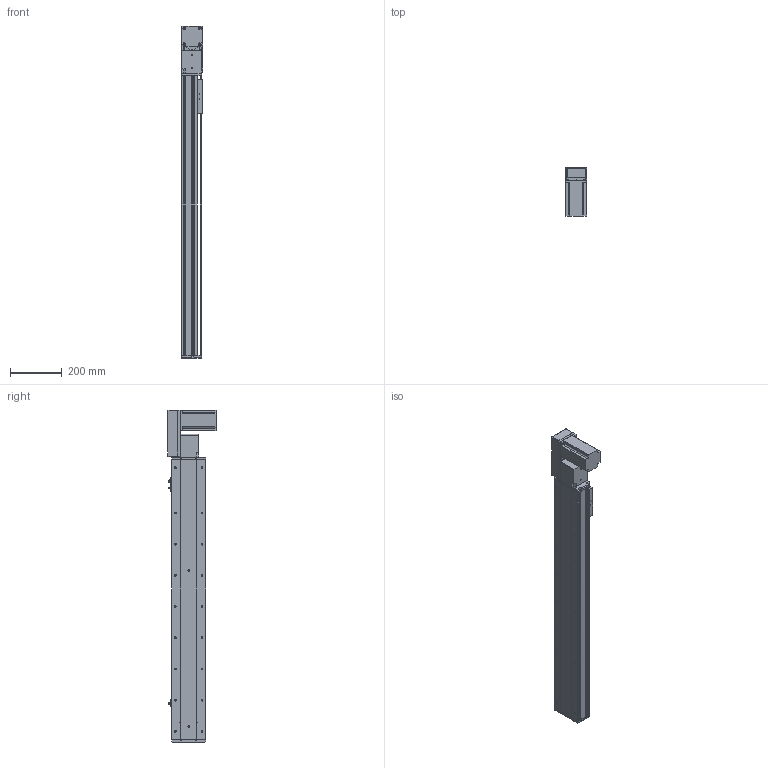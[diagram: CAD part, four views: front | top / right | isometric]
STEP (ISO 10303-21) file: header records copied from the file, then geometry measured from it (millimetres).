
FILE_DESCRIPTION (( 'STEP AP214' ), '1' );
FILE_NAME ('KSD130B-S850-MRB-CM.STEP', '2019-11-15T06:32:03', ( '微软用户' ), ( '微软中国' ), 'SwSTEP 2.0', 'SolidWorks 2014', '' );
FILE_SCHEMA (( 'AUTOMOTIVE_DESIGN' ));
Length unit declared in the file: millimetre
Products named in the file (12): 台达ECMA－C20807AS伺服电机; 130宽模组保护罩上下左右折-同步带; 130宽模组马达安装板连板左右折同步带; 覜茼え100遵圉猾敕; U倰嫖萇EEㄜSX672; 130宽盖板半封闭同步带-850行程; 130宽马达安装板同步带右-改镜向_默认<按加工>; 130宽马达安装板同步带半封闭; 130宽同步带安装座半封闭; 130宽端盖同步带半封闭; 130宽底板半封闭同步带-850行程; KSD130B-S850-MRB-CM
Assembly tree (13 placements, depth 2):
  KSD130B-S850-MRB-CM
    130宽底板半封闭同步带-850行程
    130宽端盖同步带半封闭
    130宽同步带安装座半封闭
    130宽马达安装板同步带半封闭
    130宽马达安装板同步带右-改镜向_默认<按加工>
    130宽盖板半封闭同步带-850行程
    U倰嫖萇EEㄜSX672  x3
    覜茼え100遵圉猾敕
    130宽模组马达安装板连板左右折同步带
    130宽模组保护罩上下左右折-同步带
    台达ECMA－C20807AS伺服电机
Bounding box: 81 x 184.8 x 1277 mm (x, y, z)
Volume: 4584433 mm3; surface area: 1237603.6 mm2
Topology: 14 solids, 14 shells, 1495 faces, 4241 edges, 2711 vertices
Faces by surface type: cylinder 710, plane 618, cone 167
Entity records: 48651 total; most frequent: CARTESIAN_POINT 8896, DIRECTION 7427, ORIENTED_EDGE 7134, EDGE_CURVE 3567, AXIS2_PLACEMENT_3D 2702, VERTEX_POINT 2335, VECTOR 2023, LINE 2023
